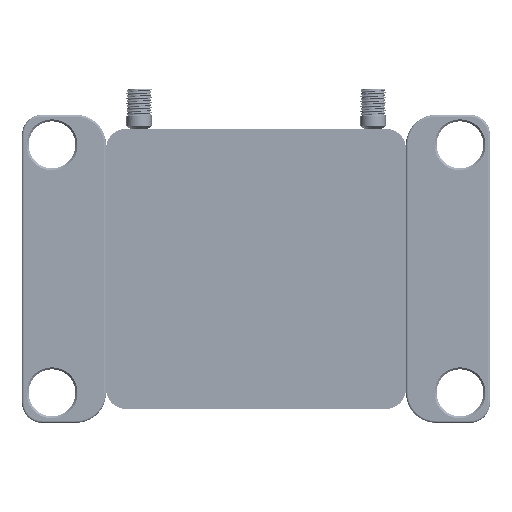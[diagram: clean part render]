
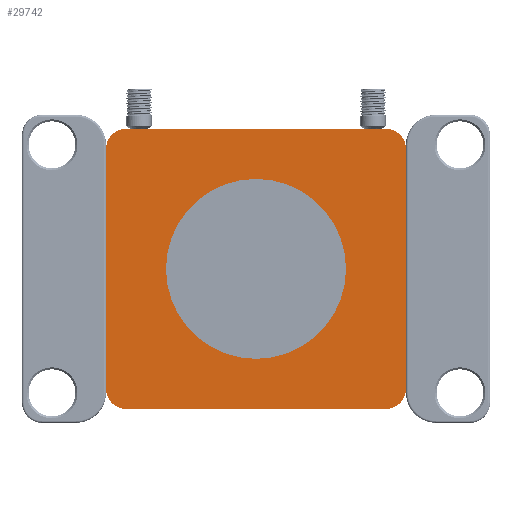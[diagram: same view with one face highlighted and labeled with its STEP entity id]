
A CAD part, front view. The second image highlights one B-rep face of the part: STEP entity #29742.
In plain terms, the highlighted planar face has unit normal (0, -1, 0) as drawn and (0, 1, 0) by its records, which use the part's own axes.
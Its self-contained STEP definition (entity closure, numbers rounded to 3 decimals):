
#657 = EDGE_CURVE ( 'NONE', #55071, #37607, #1992, .T. ) ;
#1992 = CIRCLE ( 'NONE', #52289, 10. ) ;
#2063 = ORIENTED_EDGE ( 'NONE', *, *, #61296, .T. ) ;
#2740 = CIRCLE ( 'NONE', #51997, 45. ) ;
#3136 = CARTESIAN_POINT ( 'NONE',  ( -65., 8., -60. ) ) ;
#3347 = CARTESIAN_POINT ( 'NONE',  ( -65., 8., 60. ) ) ;
#3956 = ORIENTED_EDGE ( 'NONE', *, *, #37430, .F. ) ;
#4074 = VERTEX_POINT ( 'NONE', #54772 ) ;
#4563 = ORIENTED_EDGE ( 'NONE', *, *, #11454, .F. ) ;
#5227 = DIRECTION ( 'NONE',  ( 1., 0., 0. ) ) ;
#5552 = LINE ( 'NONE', #59973, #30546 ) ;
#5831 = CARTESIAN_POINT ( 'NONE',  ( -75., 8., -60. ) ) ;
#9576 = CARTESIAN_POINT ( 'NONE',  ( 75., 8., -60. ) ) ;
#9788 = VECTOR ( 'NONE', #23644, 1000. ) ;
#11454 = EDGE_CURVE ( 'NONE', #35046, #58674, #2740, .T. ) ;
#11469 = DIRECTION ( 'NONE',  ( 0., 0., -1. ) ) ;
#11972 = ORIENTED_EDGE ( 'NONE', *, *, #64556, .T. ) ;
#12225 = VERTEX_POINT ( 'NONE', #58002 ) ;
#12378 = DIRECTION ( 'NONE',  ( 0., 1., 0. ) ) ;
#15727 = CIRCLE ( 'NONE', #47154, 45. ) ;
#18557 = DIRECTION ( 'NONE',  ( -1., 0., 0. ) ) ;
#18911 = CARTESIAN_POINT ( 'NONE',  ( 75., 8., 60. ) ) ;
#20817 = AXIS2_PLACEMENT_3D ( 'NONE', #40189, #29405, #44479 ) ;
#22481 = EDGE_CURVE ( 'NONE', #50711, #59326, #34304, .T. ) ;
#22519 = CIRCLE ( 'NONE', #53975, 10. ) ;
#23644 = DIRECTION ( 'NONE',  ( 0., 0., 1. ) ) ;
#24349 = EDGE_CURVE ( 'NONE', #12225, #55071, #55347, .T. ) ;
#27152 = PLANE ( 'NONE',  #61627 ) ;
#27471 = FACE_OUTER_BOUND ( 'NONE', #40327, .T. ) ;
#28100 = CARTESIAN_POINT ( 'NONE',  ( 65., 8., -70. ) ) ;
#29277 = CARTESIAN_POINT ( 'NONE',  ( -65., 8., 70. ) ) ;
#29385 = DIRECTION ( 'NONE',  ( 0., 1., 0. ) ) ;
#29405 = DIRECTION ( 'NONE',  ( 0., 1., 0. ) ) ;
#29742 = ADVANCED_FACE ( 'NONE', ( #32073, #27471 ), #27152, .T. ) ;
#30546 = VECTOR ( 'NONE', #5227, 1000. ) ;
#31536 = DIRECTION ( 'NONE',  ( 0., 0., -1. ) ) ;
#32016 = CARTESIAN_POINT ( 'NONE',  ( 0., 8., -45. ) ) ;
#32073 = FACE_BOUND ( 'NONE', #64397, .T. ) ;
#32583 = DIRECTION ( 'NONE',  ( 0., 1., 0. ) ) ;
#34289 = CARTESIAN_POINT ( 'NONE',  ( 0., 8., 0. ) ) ;
#34304 = LINE ( 'NONE', #28100, #64465 ) ;
#35046 = VERTEX_POINT ( 'NONE', #38285 ) ;
#35148 = CIRCLE ( 'NONE', #56084, 10. ) ;
#36846 = CARTESIAN_POINT ( 'NONE',  ( 0., 8., 0. ) ) ;
#37305 = DIRECTION ( 'NONE',  ( 0., 0., 1. ) ) ;
#37430 = EDGE_CURVE ( 'NONE', #58674, #35046, #15727, .T. ) ;
#37607 = VERTEX_POINT ( 'NONE', #29277 ) ;
#38285 = CARTESIAN_POINT ( 'NONE',  ( 0., 8., 45. ) ) ;
#40189 = CARTESIAN_POINT ( 'NONE',  ( 65., 8., 60. ) ) ;
#40327 = EDGE_LOOP ( 'NONE', ( #62892, #42996, #46972, #2063, #43019, #11972, #56911, #55757 ) ) ;
#40980 = EDGE_CURVE ( 'NONE', #48757, #50711, #22519, .T. ) ;
#41496 = EDGE_CURVE ( 'NONE', #59326, #12225, #35148, .T. ) ;
#42052 = DIRECTION ( 'NONE',  ( 0., 1., 0. ) ) ;
#42382 = DIRECTION ( 'NONE',  ( 0., 0., -1. ) ) ;
#42663 = CARTESIAN_POINT ( 'NONE',  ( -75., 8., 60. ) ) ;
#42902 = CARTESIAN_POINT ( 'NONE',  ( -65., 8., -70. ) ) ;
#42996 = ORIENTED_EDGE ( 'NONE', *, *, #24349, .T. ) ;
#43019 = ORIENTED_EDGE ( 'NONE', *, *, #53702, .T. ) ;
#44479 = DIRECTION ( 'NONE',  ( 0., 0., -1. ) ) ;
#46286 = CARTESIAN_POINT ( 'NONE',  ( 65., 8., -60. ) ) ;
#46972 = ORIENTED_EDGE ( 'NONE', *, *, #657, .T. ) ;
#47154 = AXIS2_PLACEMENT_3D ( 'NONE', #36846, #32583, #52584 ) ;
#47497 = VECTOR ( 'NONE', #11469, 1000. ) ;
#48713 = DIRECTION ( 'NONE',  ( 0., 1., 0. ) ) ;
#48757 = VERTEX_POINT ( 'NONE', #9576 ) ;
#50131 = CIRCLE ( 'NONE', #20817, 10. ) ;
#50711 = VERTEX_POINT ( 'NONE', #60240 ) ;
#51997 = AXIS2_PLACEMENT_3D ( 'NONE', #34289, #29385, #53972 ) ;
#52289 = AXIS2_PLACEMENT_3D ( 'NONE', #3347, #42052, #42382 ) ;
#52584 = DIRECTION ( 'NONE',  ( 0., 0., 1. ) ) ;
#53702 = EDGE_CURVE ( 'NONE', #4074, #60505, #50131, .T. ) ;
#53972 = DIRECTION ( 'NONE',  ( 0., 0., 1. ) ) ;
#53975 = AXIS2_PLACEMENT_3D ( 'NONE', #46286, #60384, #31536 ) ;
#54772 = CARTESIAN_POINT ( 'NONE',  ( 65., 8., 70. ) ) ;
#55071 = VERTEX_POINT ( 'NONE', #42663 ) ;
#55347 = LINE ( 'NONE', #5831, #9788 ) ;
#55757 = ORIENTED_EDGE ( 'NONE', *, *, #22481, .T. ) ;
#56084 = AXIS2_PLACEMENT_3D ( 'NONE', #3136, #48713, #61600 ) ;
#56405 = CARTESIAN_POINT ( 'NONE',  ( 75., 8., -60. ) ) ;
#56736 = LINE ( 'NONE', #56405, #47497 ) ;
#56911 = ORIENTED_EDGE ( 'NONE', *, *, #40980, .T. ) ;
#57314 = CARTESIAN_POINT ( 'NONE',  ( -50., 8., -50. ) ) ;
#58002 = CARTESIAN_POINT ( 'NONE',  ( -75., 8., -60. ) ) ;
#58674 = VERTEX_POINT ( 'NONE', #32016 ) ;
#59326 = VERTEX_POINT ( 'NONE', #42902 ) ;
#59973 = CARTESIAN_POINT ( 'NONE',  ( 65., 8., 70. ) ) ;
#60240 = CARTESIAN_POINT ( 'NONE',  ( 65., 8., -70. ) ) ;
#60384 = DIRECTION ( 'NONE',  ( 0., 1., 0. ) ) ;
#60505 = VERTEX_POINT ( 'NONE', #18911 ) ;
#61296 = EDGE_CURVE ( 'NONE', #37607, #4074, #5552, .T. ) ;
#61600 = DIRECTION ( 'NONE',  ( 0., 0., 1. ) ) ;
#61627 = AXIS2_PLACEMENT_3D ( 'NONE', #57314, #12378, #37305 ) ;
#62892 = ORIENTED_EDGE ( 'NONE', *, *, #41496, .T. ) ;
#64397 = EDGE_LOOP ( 'NONE', ( #3956, #4563 ) ) ;
#64465 = VECTOR ( 'NONE', #18557, 1000. ) ;
#64556 = EDGE_CURVE ( 'NONE', #60505, #48757, #56736, .T. ) ;
